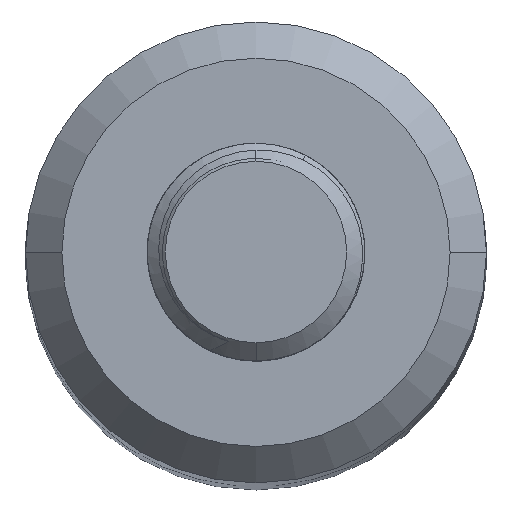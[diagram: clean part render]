
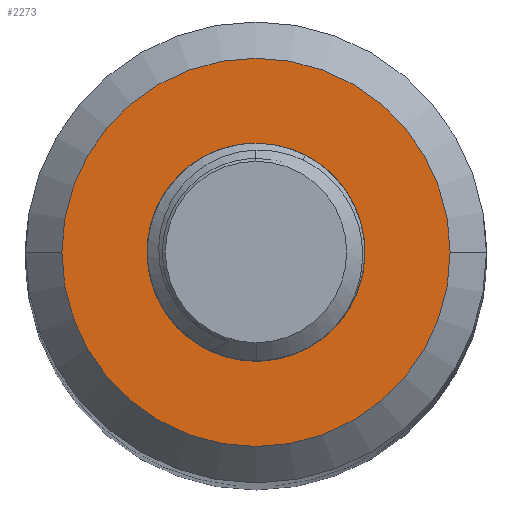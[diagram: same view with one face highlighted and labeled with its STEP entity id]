
A CAD part, top view. The second image highlights one B-rep face of the part: STEP entity #2273.
In plain terms, the highlighted planar face has unit normal (0, 0, 1).
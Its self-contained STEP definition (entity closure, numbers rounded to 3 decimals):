
#229=CARTESIAN_POINT('',(0.,0.,114.3));
#230=DIRECTION('',(0.,0.,1.));
#231=DIRECTION('',(-1.,0.,0.));
#232=AXIS2_PLACEMENT_3D('',#229,#230,#231);
#234=CARTESIAN_POINT('',(0.,0.,114.3));
#235=DIRECTION('',(0.,0.,1.));
#236=DIRECTION('',(1.,0.,0.));
#237=AXIS2_PLACEMENT_3D('',#234,#235,#236);
#239=CARTESIAN_POINT('',(0.,0.,114.3));
#240=DIRECTION('',(0.,0.,-1.));
#241=DIRECTION('',(0.,1.,0.));
#242=AXIS2_PLACEMENT_3D('',#239,#240,#241);
#244=CARTESIAN_POINT('',(0.,0.,114.3));
#245=DIRECTION('',(0.,0.,-1.));
#246=DIRECTION('',(0.,-1.,0.));
#247=AXIS2_PLACEMENT_3D('',#244,#245,#246);
#1906=CARTESIAN_POINT('',(-5.35,0.,114.3));
#1907=CARTESIAN_POINT('',(5.35,0.,114.3));
#1908=VERTEX_POINT('',#1906);
#1909=VERTEX_POINT('',#1907);
#1950=CARTESIAN_POINT('',(0.,2.,114.3));
#1951=CARTESIAN_POINT('',(0.,-2.,114.3));
#1952=VERTEX_POINT('',#1950);
#1953=VERTEX_POINT('',#1951);
#2257=CARTESIAN_POINT('',(0.,0.,114.3));
#2258=DIRECTION('',(0.,0.,1.));
#2259=DIRECTION('',(1.,0.,0.));
#2260=AXIS2_PLACEMENT_3D('',#2257,#2258,#2259);
#2261=PLANE('',#2260);
#2262=ORIENTED_EDGE('',*,*,#2247,.F.);
#2264=ORIENTED_EDGE('',*,*,#2263,.F.);
#2265=EDGE_LOOP('',(#2262,#2264));
#2266=FACE_OUTER_BOUND('',#2265,.F.);
#2268=ORIENTED_EDGE('',*,*,#2267,.F.);
#2270=ORIENTED_EDGE('',*,*,#2269,.F.);
#2271=EDGE_LOOP('',(#2268,#2270));
#2272=FACE_BOUND('',#2271,.F.);
#2273=ADVANCED_FACE('',(#2266,#2272),#2261,.T.);
#233=CIRCLE('',#232,5.35);
#238=CIRCLE('',#237,5.35);
#243=CIRCLE('',#242,2.);
#248=CIRCLE('',#247,2.);
#2247=EDGE_CURVE('',#1908,#1909,#233,.T.);
#2263=EDGE_CURVE('',#1909,#1908,#238,.T.);
#2267=EDGE_CURVE('',#1952,#1953,#243,.T.);
#2269=EDGE_CURVE('',#1953,#1952,#248,.T.);
